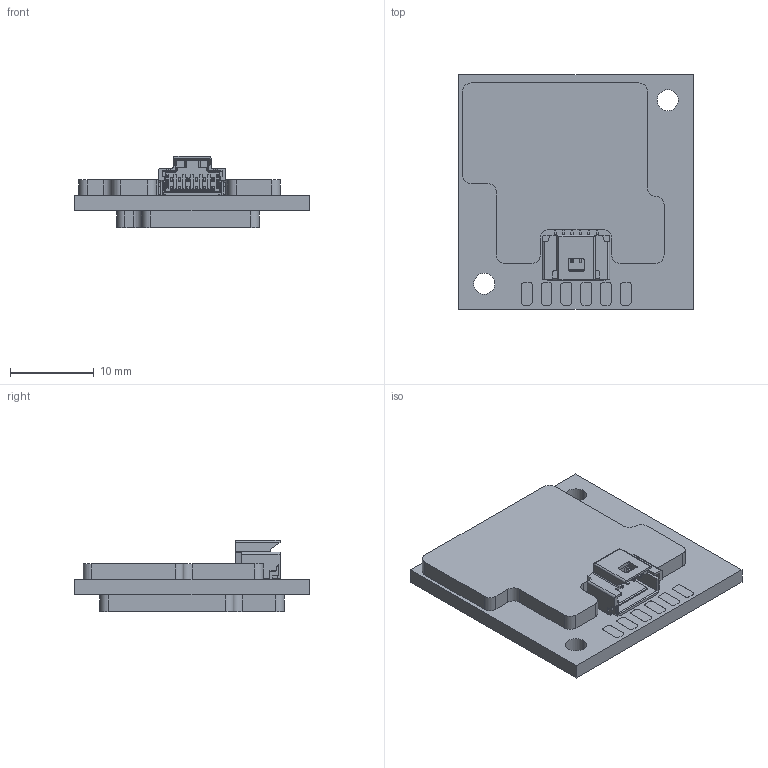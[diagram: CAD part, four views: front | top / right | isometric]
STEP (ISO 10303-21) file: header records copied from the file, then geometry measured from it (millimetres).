
FILE_DESCRIPTION (( 'STEP AP214' ), '1' );
FILE_NAME ('MODM500.STEP', '2024-10-07T09:08:34', ( '' ), ( '' ), 'SwSTEP 2.0', 'SolidWorks 2022', '' );
FILE_SCHEMA (( 'AUTOMOTIVE_DESIGN' ));
Length unit declared in the file: millimetre
Products named in the file (1): MODM500
Bounding box: 28 x 28 x 8.48 mm (x, y, z)
Volume: 2936.8 mm3; surface area: 2508.3 mm2
Topology: 7 solids, 7 shells, 743 faces, 2002 edges, 1276 vertices
Faces by surface type: plane 616, cylinder 75, cone 52
Entity records: 30632 total; most frequent: CARTESIAN_POINT 4064, ORIENTED_EDGE 4004, DIRECTION 3662, EDGE_CURVE 2002, VECTOR 1778, LINE 1778, VERTEX_POINT 1276, AXIS2_PLACEMENT_3D 942
